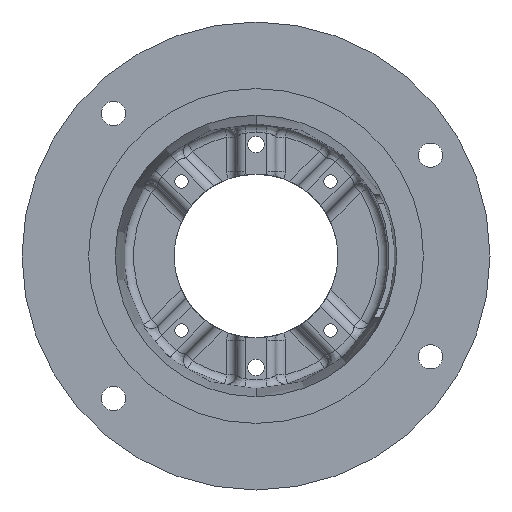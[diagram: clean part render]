
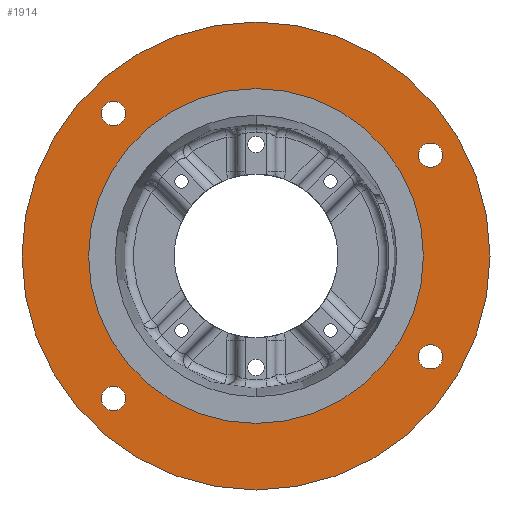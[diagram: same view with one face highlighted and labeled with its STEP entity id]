
A CAD part, front view. The second image highlights one B-rep face of the part: STEP entity #1914.
In plain terms, the highlighted planar face has unit normal (0, -1, 0).
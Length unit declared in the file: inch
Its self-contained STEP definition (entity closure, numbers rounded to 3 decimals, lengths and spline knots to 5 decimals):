
#10 = ORIENTED_EDGE ( 'NONE', *, *, #359, .T. ) ;
#150 = VERTEX_POINT ( 'NONE', #613 ) ;
#172 = DIRECTION ( 'NONE',  ( 0., 0., -1. ) ) ;
#191 = DIRECTION ( 'NONE',  ( 0., -1., 0. ) ) ;
#195 = AXIS2_PLACEMENT_3D ( 'NONE', #6230, #3182, #172 ) ;
#222 = CARTESIAN_POINT ( 'NONE',  ( 0., 0., 0. ) ) ;
#249 = VERTEX_POINT ( 'NONE', #6325 ) ;
#276 = CIRCLE ( 'NONE', #578, 4.5 ) ;
#316 = EDGE_CURVE ( 'NONE', #2305, #1098, #3429, .T. ) ;
#318 = EDGE_LOOP ( 'NONE', ( #5613, #4417 ) ) ;
#330 = CARTESIAN_POINT ( 'NONE',  ( 0., 0., 3.2195 ) ) ;
#359 = EDGE_CURVE ( 'NONE', #4351, #1279, #276, .T. ) ;
#486 = AXIS2_PLACEMENT_3D ( 'NONE', #2611, #6161, #3121 ) ;
#509 = ORIENTED_EDGE ( 'NONE', *, *, #1122, .F. ) ;
#521 = AXIS2_PLACEMENT_3D ( 'NONE', #3209, #191, #3719 ) ;
#526 = DIRECTION ( 'NONE',  ( 0., -1., 0. ) ) ;
#553 = ORIENTED_EDGE ( 'NONE', *, *, #5595, .F. ) ;
#578 = AXIS2_PLACEMENT_3D ( 'NONE', #3553, #526, #4059 ) ;
#583 = ORIENTED_EDGE ( 'NONE', *, *, #6334, .F. ) ;
#613 = CARTESIAN_POINT ( 'NONE',  ( 3.35585, 0., 1.70313 ) ) ;
#697 = DIRECTION ( 'NONE',  ( 0., -1., 0. ) ) ;
#734 = DIRECTION ( 'NONE',  ( 0., 0., -1. ) ) ;
#753 = EDGE_LOOP ( 'NONE', ( #553, #5586 ) ) ;
#819 = EDGE_CURVE ( 'NONE', #3826, #4381, #2960, .T. ) ;
#1004 = CARTESIAN_POINT ( 'NONE',  ( 3.35585, 0., 2.17188 ) ) ;
#1027 = DIRECTION ( 'NONE',  ( 0., -1., 0. ) ) ;
#1098 = VERTEX_POINT ( 'NONE', #4262 ) ;
#1122 = EDGE_CURVE ( 'NONE', #150, #1740, #5902, .T. ) ;
#1123 = FACE_BOUND ( 'NONE', #5839, .T. ) ;
#1279 = VERTEX_POINT ( 'NONE', #2641 ) ;
#1297 = CARTESIAN_POINT ( 'NONE',  ( -4.5, 0., 0. ) ) ;
#1303 = CARTESIAN_POINT ( 'NONE',  ( -2.74004, 0., -2.74004 ) ) ;
#1490 = ORIENTED_EDGE ( 'NONE', *, *, #6065, .F. ) ;
#1560 = CIRCLE ( 'NONE', #3440, 0.23438 ) ;
#1710 = ORIENTED_EDGE ( 'NONE', *, *, #819, .F. ) ;
#1740 = VERTEX_POINT ( 'NONE', #1004 ) ;
#1810 = DIRECTION ( 'NONE',  ( 0., 0., -1. ) ) ;
#1827 = CIRCLE ( 'NONE', #4504, 4.5 ) ;
#1840 = CARTESIAN_POINT ( 'NONE',  ( 3.35585, 0., 1.9375 ) ) ;
#1914 = ADVANCED_FACE ( 'NONE', ( #6346, #6498, #1123, #4984, #3629, #2303 ), #4827, .F. ) ;
#2303 = FACE_OUTER_BOUND ( 'NONE', #6409, .T. ) ;
#2305 = VERTEX_POINT ( 'NONE', #4684 ) ;
#2324 = CIRCLE ( 'NONE', #3410, 0.23437 ) ;
#2337 = DIRECTION ( 'NONE',  ( 0., 0., -1. ) ) ;
#2375 = ORIENTED_EDGE ( 'NONE', *, *, #4813, .F. ) ;
#2559 = DIRECTION ( 'NONE',  ( 0., -1., 0. ) ) ;
#2600 = VERTEX_POINT ( 'NONE', #3979 ) ;
#2611 = CARTESIAN_POINT ( 'NONE',  ( -2.74004, 0., 2.74004 ) ) ;
#2641 = CARTESIAN_POINT ( 'NONE',  ( 0., 0., -4.5 ) ) ;
#2678 = ORIENTED_EDGE ( 'NONE', *, *, #4114, .F. ) ;
#2741 = DIRECTION ( 'NONE',  ( 0., -1., 0. ) ) ;
#2757 = EDGE_CURVE ( 'NONE', #249, #2600, #1560, .T. ) ;
#2809 = DIRECTION ( 'NONE',  ( 0., 1., 0. ) ) ;
#2816 = AXIS2_PLACEMENT_3D ( 'NONE', #5597, #2559, #6109 ) ;
#2906 = CARTESIAN_POINT ( 'NONE',  ( -2.74004, 0., -2.97441 ) ) ;
#2960 = CIRCLE ( 'NONE', #3844, 0.23437 ) ;
#3005 = DIRECTION ( 'NONE',  ( 0., -1., 0. ) ) ;
#3121 = DIRECTION ( 'NONE',  ( 0., 0., -1. ) ) ;
#3182 = DIRECTION ( 'NONE',  ( 0., -1., 0. ) ) ;
#3209 = CARTESIAN_POINT ( 'NONE',  ( 0., 0., 0. ) ) ;
#3410 = AXIS2_PLACEMENT_3D ( 'NONE', #1303, #4840, #1810 ) ;
#3429 = CIRCLE ( 'NONE', #6474, 0.23438 ) ;
#3440 = AXIS2_PLACEMENT_3D ( 'NONE', #5782, #2741, #6294 ) ;
#3465 = CIRCLE ( 'NONE', #521, 3.2195 ) ;
#3553 = CARTESIAN_POINT ( 'NONE',  ( 0., 0., 0. ) ) ;
#3629 = FACE_BOUND ( 'NONE', #5525, .T. ) ;
#3716 = CARTESIAN_POINT ( 'NONE',  ( 3.35585, 0., 1.9375 ) ) ;
#3719 = DIRECTION ( 'NONE',  ( 0., 0., -1. ) ) ;
#3746 = DIRECTION ( 'NONE',  ( 0., -1., 0. ) ) ;
#3826 = VERTEX_POINT ( 'NONE', #3838 ) ;
#3835 = VERTEX_POINT ( 'NONE', #330 ) ;
#3838 = CARTESIAN_POINT ( 'NONE',  ( -2.74004, 0., -2.50566 ) ) ;
#3844 = AXIS2_PLACEMENT_3D ( 'NONE', #4041, #1027, #4555 ) ;
#3979 = CARTESIAN_POINT ( 'NONE',  ( -2.74004, 0., 2.50566 ) ) ;
#4041 = CARTESIAN_POINT ( 'NONE',  ( -2.74004, 0., -2.74004 ) ) ;
#4044 = AXIS2_PLACEMENT_3D ( 'NONE', #1840, #5371, #2337 ) ;
#4059 = DIRECTION ( 'NONE',  ( 0., 0., -1. ) ) ;
#4114 = EDGE_CURVE ( 'NONE', #3835, #5020, #4663, .T. ) ;
#4208 = EDGE_CURVE ( 'NONE', #1279, #4351, #1827, .T. ) ;
#4229 = DIRECTION ( 'NONE',  ( 0., 0., -1. ) ) ;
#4262 = CARTESIAN_POINT ( 'NONE',  ( 3.35585, 0., -1.70312 ) ) ;
#4351 = VERTEX_POINT ( 'NONE', #5405 ) ;
#4381 = VERTEX_POINT ( 'NONE', #2906 ) ;
#4417 = ORIENTED_EDGE ( 'NONE', *, *, #4758, .F. ) ;
#4444 = AXIS2_PLACEMENT_3D ( 'NONE', #1297, #2809, #6354 ) ;
#4504 = AXIS2_PLACEMENT_3D ( 'NONE', #222, #3746, #734 ) ;
#4555 = DIRECTION ( 'NONE',  ( 0., 0., -1. ) ) ;
#4663 = CIRCLE ( 'NONE', #2816, 3.2195 ) ;
#4684 = CARTESIAN_POINT ( 'NONE',  ( 3.35585, 0., -2.17187 ) ) ;
#4747 = ORIENTED_EDGE ( 'NONE', *, *, #4208, .T. ) ;
#4758 = EDGE_CURVE ( 'NONE', #1098, #2305, #6158, .T. ) ;
#4813 = EDGE_CURVE ( 'NONE', #5020, #3835, #3465, .T. ) ;
#4827 = PLANE ( 'NONE',  #4444 ) ;
#4840 = DIRECTION ( 'NONE',  ( 0., -1., 0. ) ) ;
#4984 = FACE_BOUND ( 'NONE', #753, .T. ) ;
#5020 = VERTEX_POINT ( 'NONE', #5563 ) ;
#5095 = AXIS2_PLACEMENT_3D ( 'NONE', #3716, #697, #4229 ) ;
#5242 = CIRCLE ( 'NONE', #5095, 0.23438 ) ;
#5371 = DIRECTION ( 'NONE',  ( 0., -1., 0. ) ) ;
#5405 = CARTESIAN_POINT ( 'NONE',  ( 0., 0., 4.5 ) ) ;
#5525 = EDGE_LOOP ( 'NONE', ( #2375, #2678 ) ) ;
#5563 = CARTESIAN_POINT ( 'NONE',  ( 0., 0., -3.2195 ) ) ;
#5586 = ORIENTED_EDGE ( 'NONE', *, *, #2757, .F. ) ;
#5595 = EDGE_CURVE ( 'NONE', #2600, #249, #6122, .T. ) ;
#5597 = CARTESIAN_POINT ( 'NONE',  ( 0., 0., 0. ) ) ;
#5613 = ORIENTED_EDGE ( 'NONE', *, *, #316, .F. ) ;
#5782 = CARTESIAN_POINT ( 'NONE',  ( -2.74004, 0., 2.74004 ) ) ;
#5839 = EDGE_LOOP ( 'NONE', ( #1490, #1710 ) ) ;
#5859 = EDGE_LOOP ( 'NONE', ( #509, #583 ) ) ;
#5902 = CIRCLE ( 'NONE', #4044, 0.23438 ) ;
#6039 = CARTESIAN_POINT ( 'NONE',  ( 3.35585, 0., -1.9375 ) ) ;
#6065 = EDGE_CURVE ( 'NONE', #4381, #3826, #2324, .T. ) ;
#6109 = DIRECTION ( 'NONE',  ( 0., 0., -1. ) ) ;
#6122 = CIRCLE ( 'NONE', #486, 0.23438 ) ;
#6158 = CIRCLE ( 'NONE', #195, 0.23438 ) ;
#6161 = DIRECTION ( 'NONE',  ( 0., -1., 0. ) ) ;
#6230 = CARTESIAN_POINT ( 'NONE',  ( 3.35585, 0., -1.9375 ) ) ;
#6294 = DIRECTION ( 'NONE',  ( 0., 0., -1. ) ) ;
#6325 = CARTESIAN_POINT ( 'NONE',  ( -2.74004, 0., 2.97441 ) ) ;
#6334 = EDGE_CURVE ( 'NONE', #1740, #150, #5242, .T. ) ;
#6346 = FACE_BOUND ( 'NONE', #5859, .T. ) ;
#6354 = DIRECTION ( 'NONE',  ( 0., 0., 1. ) ) ;
#6409 = EDGE_LOOP ( 'NONE', ( #4747, #10 ) ) ;
#6474 = AXIS2_PLACEMENT_3D ( 'NONE', #6039, #3005, #6546 ) ;
#6498 = FACE_BOUND ( 'NONE', #318, .T. ) ;
#6546 = DIRECTION ( 'NONE',  ( 0., 0., -1. ) ) ;
